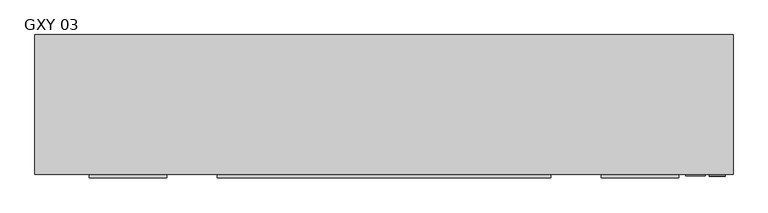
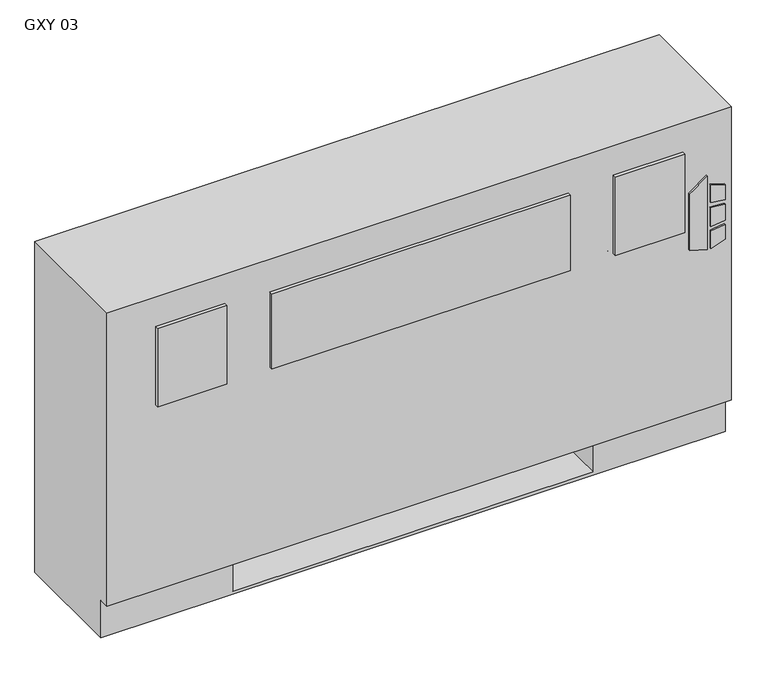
"""IFC4 building model written with IfcOpenShell, lengths in millimetres: proxy geometry, Vertical_Fan_Coil_Unit_-_GXY_-_IEC_-_2-Pipe_FS-FR_RH_2022 : GXY 03."""

from ifc_helpers import new_model, si_unit, point, frame, frame_2d, origin, place, context, project, spatial, polyline, circle_curve, trimmed, segment, composite_curve, outline, extrude, source, transform, mapped, element, save
from ifc_brep_helpers import plane_surface, revolved_surface, advanced_brep


def gxy_03_310a4355(model_context):
    return source(origin(), model_context, "Body", "SolidModel", [
        extrude(outline(polyline([(391.6086829, 646.1868862), (381.6606126, 678.3602728), (523.831537, 678.3602728), (500.8095309, 646.1868862), (391.6086829, 646.1868862)])), frame((0.0, 12.7, 0.0), z_axis=(0.0, 1.0, 0.0), x_axis=(0.0, 0.0, 1.0)), (0.0, 0.0, 1.0), 3.175),
        extrude(outline(polyline([(470.6079683, 685.1186058), (467.4055757, 711.2), (496.6344168, 711.2), (504.6988318, 685.1186058), (470.6079683, 685.1186058)])), frame((0.0, 12.7, 0.0), z_axis=(0.0, 1.0, 0.0), x_axis=(0.0, 0.0, 1.0)), (0.0, 0.0, 1.0), 3.175),
        extrude(outline(polyline([(418.7444414, 711.2), (415.0789404, 685.1186058), (381.6606126, 685.1186058), (390.2948498, 711.2), (418.7444414, 711.2)])), frame((0.0, 12.7, 0.0), z_axis=(0.0, 1.0, 0.0), x_axis=(0.0, 0.0, 1.0)), (0.0, 0.0, 1.0), 3.175),
        extrude(outline(polyline([(458.0596028, 711.2), (460.3414292, 685.1186058), (424.4038806, 685.1186058), (427.1451456, 711.2), (458.0596028, 711.2)])), frame((0.0, 12.7, 0.0), z_axis=(0.0, 1.0, 0.0), x_axis=(0.0, 0.0, 1.0)), (0.0, 0.0, 1.0), 3.175),
        extrude(outline(polyline([(-203.2, 9.525), (-330.2, 9.525), (-330.2, 15.875), (-203.2, 15.875), (-203.2, 9.525)])), frame((0.0, 0.0, 431.8), z_axis=(0.0, 0.0, 1.0), x_axis=(1.0, 0.0, 0.0)), (0.0, 0.0, 1.0), 152.4),
        extrude(outline(polyline([(425.45, 9.525), (-120.65, 9.525), (-120.65, 15.875), (425.45, 15.875), (425.45, 9.525)])), frame((0.0, 0.0, 431.8), z_axis=(0.0, 0.0, 1.0), x_axis=(1.0, 0.0, 0.0)), (0.0, 0.0, 1.0), 146.05),
        extrude(outline(polyline([(635.0, 9.525), (508.0, 9.525), (508.0, 15.875), (635.0, 15.875), (635.0, 9.525)])), frame((0.0, 0.0, 431.8), z_axis=(0.0, 0.0, 1.0), x_axis=(1.0, 0.0, 0.0)), (0.0, 0.0, 1.0), 152.4),
        extrude(outline(polyline([(-298.45, 81.534), (-298.45, 223.266), (-127.0, 223.266), (-127.0, 81.534), (-298.45, 81.534)])), frame((0.0, 0.0, 327.025), z_axis=(0.0, 0.0, 1.0), x_axis=(1.0, 0.0, 0.0)), (0.0, 0.0, 1.0), 260.35),
        extrude(outline(composite_curve([segment(trimmed(circle_curve(frame_2d((78.9432, 398.5514)), 7.9375), [point((78.9432, 406.4889))], [point((78.9432, 390.6139))], False, "CARTESIAN"), True, "CONTINUOUS"), segment(trimmed(circle_curve(frame_2d((78.9432, 398.5514)), 7.9375), [point((78.9432, 390.6139))], [point((78.9432, 406.4889))], False, "CARTESIAN"), True, "CONTINUOUS")], self_intersect=False)), frame((482.6, 0.0, 0.0), z_axis=(1.0, 0.0, 0.0), x_axis=(0.0, 1.0, 0.0)), (0.0, 0.0, 1.0), 50.8),
        extrude(outline(composite_curve([segment(trimmed(circle_curve(frame_2d((155.9052, 537.3878)), 7.9375), [point((155.9052, 545.3253))], [point((155.9052, 529.4503))], False, "CARTESIAN"), True, "CONTINUOUS"), segment(trimmed(circle_curve(frame_2d((155.9052, 537.3878)), 7.9375), [point((155.9052, 529.4503))], [point((155.9052, 545.3253))], False, "CARTESIAN"), True, "CONTINUOUS")], self_intersect=False)), frame((482.6, 0.0, 0.0), z_axis=(1.0, 0.0, 0.0), x_axis=(0.0, 1.0, 0.0)), (0.0, 0.0, 1.0), 50.8),
        advanced_brep(
        [(723.9, 244.475, 641.35), (-419.1, 244.475, 641.35), (-419.1, 15.875, 641.35), (723.9, 15.875, 641.35), (-419.1, 244.475, 0.0), (723.9, 244.475, 0.0), (723.9, 34.925, 0.0), (-419.1, 34.925, 0.0), (482.6, 244.475, 73.025), (711.2, 244.475, 73.025), (711.2, 244.475, 628.65), (482.6, 244.475, 628.65), (482.6, 244.475, 418.0400565), (511.175, 244.475, 418.0400565), (511.175, 244.475, 388.4099435), (482.6, 244.475, 388.4099435), (482.6, 244.475, 290.5125), (511.175, 244.475, 290.5125), (511.175, 244.475, 261.9375), (482.6, 244.475, 261.9375), (482.6, 244.475, 119.0625), (511.175, 244.475, 119.0625), (511.175, 244.475, 90.4875), (482.6, 244.475, 90.4875), (-177.8, 244.475, 628.65), (-406.4, 244.475, 628.65), (-406.4, 244.475, 73.025), (-177.8, 244.475, 73.025), (-177.8, 244.475, 90.4875), (-206.375, 244.475, 90.4875), (-206.375, 244.475, 119.0625), (-177.8, 244.475, 119.0625), (-177.8, 244.475, 261.9375), (-206.375, 244.475, 261.9375), (-206.375, 244.475, 290.5125), (-177.8, 244.475, 290.5125), (-177.8, 244.475, 388.4099435), (-206.375, 244.475, 388.4099435), (-206.375, 244.475, 418.0400565), (-177.8, 244.475, 418.0400565), (500.8626, 244.475, 104.775), (489.7374, 244.475, 104.775), (500.8626, 244.475, 403.225), (489.7374, 244.475, 403.225), (500.8626, 244.475, 276.225), (489.7374, 244.475, 276.225), (-184.9374, 244.475, 104.775), (-196.0626, 244.475, 104.775), (-184.9374, 244.475, 276.225), (-196.0626, 244.475, 276.225), (-184.9374, 244.475, 403.225), (-196.0626, 244.475, 403.225), (-419.1, 34.925, 73.025), (-419.1, 15.875, 73.025), (723.9, 15.875, 73.025), (723.9, 34.925, 73.025), (-177.8, 34.925, 73.025), (-177.8, 219.075, 73.025), (482.6, 219.075, 73.025), (482.6, 34.925, 73.025), (482.6, 34.925, 6.35), (-177.8, 34.925, 6.35), (482.6, 41.275, 628.65), (711.2, 41.275, 628.65), (711.2, 41.275, 73.025), (482.6, 41.275, 73.025), (-177.8, 41.275, 628.65), (-177.8, 41.275, 73.025), (-406.4, 41.275, 73.025), (-406.4, 41.275, 628.65), (482.6, 219.075, 73.025), (482.6, 238.125, 90.4875), (482.6, 238.125, 119.0625), (482.6, 238.125, 261.9375), (482.6, 238.125, 290.5125), (482.6, 238.125, 388.4099435), (482.6, 238.125, 418.0400565), (-177.8, 219.075, 73.025), (-177.8, 238.125, 418.0400565), (-177.8, 238.125, 388.4099435), (-177.8, 238.125, 290.5125), (-177.8, 238.125, 261.9375), (-177.8, 238.125, 119.0625), (-177.8, 238.125, 90.4875), (-177.8, 219.075, 6.35), (482.6, 219.075, 6.35), (511.175, 238.125, 90.4875), (511.175, 238.125, 119.0625), (489.7374, 238.125, 104.775), (500.8626, 238.125, 104.775), (511.175, 238.125, 261.9375), (511.175, 238.125, 290.5125), (489.7374, 238.125, 276.225), (500.8626, 238.125, 276.225), (511.175, 238.125, 388.4099435), (511.175, 238.125, 418.0400565), (489.7374, 238.125, 403.225), (500.8626, 238.125, 403.225), (-206.375, 238.125, 119.0625), (-206.375, 238.125, 90.4875), (-196.0626, 238.125, 104.775), (-184.9374, 238.125, 104.775), (-206.375, 238.125, 290.5125), (-206.375, 238.125, 261.9375), (-196.0626, 238.125, 276.225), (-184.9374, 238.125, 276.225), (-206.375, 238.125, 418.0400565), (-206.375, 238.125, 388.4099435), (-196.0626, 238.125, 403.225), (-184.9374, 238.125, 403.225)],
        [
            (0, 1),
            (1, 2),
            (2, 3),
            (3, 0),
            (4, 5),
            (5, 6),
            (6, 7),
            (7, 4),
            (0, 5),
            (4, 1),
            (8, 9),
            (9, 10),
            (10, 11),
            (11, 12),
            (12, 13),
            (13, 14),
            (14, 15),
            (15, 16),
            (16, 17),
            (17, 18),
            (18, 19),
            (19, 20),
            (20, 21),
            (21, 22),
            (22, 23),
            (23, 8),
            (24, 25),
            (25, 26),
            (26, 27),
            (27, 28),
            (28, 29),
            (29, 30),
            (30, 31),
            (31, 32),
            (32, 33),
            (33, 34),
            (34, 35),
            (35, 36),
            (36, 37),
            (37, 38),
            (38, 39),
            (39, 24),
            (40, 41, circle_curve(frame((495.3, 244.475, 104.775), z_axis=(0.0, -1.0, 0.0), x_axis=(-1.0, 0.0, 0.0)), 5.5626)),
            (41, 40, circle_curve(frame((495.3, 244.475, 104.775), z_axis=(0.0, -1.0, 0.0), x_axis=(-1.0, 0.0, 0.0)), 5.5626)),
            (42, 43, circle_curve(frame((495.3, 244.475, 403.225), z_axis=(0.0, -1.0, 0.0), x_axis=(-1.0, 0.0, 0.0)), 5.5626)),
            (43, 42, circle_curve(frame((495.3, 244.475, 403.225), z_axis=(0.0, -1.0, 0.0), x_axis=(-1.0, 0.0, 0.0)), 5.5626)),
            (44, 45, circle_curve(frame((495.3, 244.475, 276.225), z_axis=(0.0, -1.0, 0.0), x_axis=(-1.0, 0.0, 0.0)), 5.5626)),
            (45, 44, circle_curve(frame((495.3, 244.475, 276.225), z_axis=(0.0, -1.0, 0.0), x_axis=(-1.0, 0.0, 0.0)), 5.5626)),
            (46, 47, circle_curve(frame((-190.5, 244.475, 104.775), z_axis=(0.0, -1.0, 0.0), x_axis=(-1.0, 0.0, 0.0)), 5.5626)),
            (47, 46, circle_curve(frame((-190.5, 244.475, 104.775), z_axis=(0.0, -1.0, 0.0), x_axis=(-1.0, 0.0, 0.0)), 5.5626)),
            (48, 49, circle_curve(frame((-190.5, 244.475, 276.225), z_axis=(0.0, -1.0, 0.0), x_axis=(-1.0, 0.0, 0.0)), 5.5626)),
            (49, 48, circle_curve(frame((-190.5, 244.475, 276.225), z_axis=(0.0, -1.0, 0.0), x_axis=(-1.0, 0.0, 0.0)), 5.5626)),
            (50, 51, circle_curve(frame((-190.5, 244.475, 403.225), z_axis=(0.0, -1.0, 0.0), x_axis=(-1.0, 0.0, 0.0)), 5.5626)),
            (51, 50, circle_curve(frame((-190.5, 244.475, 403.225), z_axis=(0.0, -1.0, 0.0), x_axis=(-1.0, 0.0, 0.0)), 5.5626)),
            (7, 52),
            (52, 53),
            (53, 2),
            (53, 54),
            (54, 3),
            (54, 55),
            (55, 6),
            (52, 56),
            (56, 57),
            (57, 58),
            (58, 59),
            (59, 55),
            (59, 60),
            (60, 61),
            (61, 56),
            (62, 63),
            (63, 64),
            (64, 65),
            (65, 62),
            (66, 67),
            (67, 68),
            (68, 69),
            (69, 66),
            (65, 70),
            (70, 8),
            (23, 71),
            (71, 72),
            (72, 20),
            (19, 73),
            (73, 74),
            (74, 16),
            (15, 75),
            (75, 76),
            (76, 12),
            (11, 62),
            (64, 9),
            (63, 10),
            (69, 25),
            (24, 66),
            (68, 26),
            (67, 77),
            (77, 27),
            (39, 78),
            (78, 79),
            (79, 36),
            (35, 80),
            (80, 81),
            (81, 32),
            (31, 82),
            (82, 83),
            (83, 28),
            (57, 84),
            (84, 85),
            (85, 58),
            (85, 60),
            (84, 61),
            (71, 86),
            (86, 87),
            (87, 72),
            (88, 89, circle_curve(frame((495.3, 238.125, 104.775), z_axis=(0.0, 1.0, 0.0), x_axis=(-1.0, 0.0, 0.0)), 5.5626)),
            (89, 88, circle_curve(frame((495.3, 238.125, 104.775), z_axis=(0.0, 1.0, 0.0), x_axis=(-1.0, 0.0, 0.0)), 5.5626)),
            (73, 90),
            (90, 91),
            (91, 74),
            (92, 93, circle_curve(frame((495.3, 238.125, 276.225), z_axis=(0.0, 1.0, 0.0), x_axis=(-1.0, 0.0, 0.0)), 5.5626)),
            (93, 92, circle_curve(frame((495.3, 238.125, 276.225), z_axis=(0.0, 1.0, 0.0), x_axis=(-1.0, 0.0, 0.0)), 5.5626)),
            (75, 94),
            (94, 95),
            (95, 76),
            (96, 97, circle_curve(frame((495.3, 238.125, 403.225), z_axis=(0.0, 1.0, 0.0), x_axis=(-1.0, 0.0, 0.0)), 5.5626)),
            (97, 96, circle_curve(frame((495.3, 238.125, 403.225), z_axis=(0.0, 1.0, 0.0), x_axis=(-1.0, 0.0, 0.0)), 5.5626)),
            (98, 99),
            (99, 83),
            (82, 98),
            (100, 101, circle_curve(frame((-190.5, 238.125, 104.775), z_axis=(0.0, 1.0, 0.0), x_axis=(-1.0, 0.0, 0.0)), 5.5626)),
            (101, 100, circle_curve(frame((-190.5, 238.125, 104.775), z_axis=(0.0, 1.0, 0.0), x_axis=(-1.0, 0.0, 0.0)), 5.5626)),
            (102, 103),
            (103, 81),
            (80, 102),
            (104, 105, circle_curve(frame((-190.5, 238.125, 276.225), z_axis=(0.0, 1.0, 0.0), x_axis=(-1.0, 0.0, 0.0)), 5.5626)),
            (105, 104, circle_curve(frame((-190.5, 238.125, 276.225), z_axis=(0.0, 1.0, 0.0), x_axis=(-1.0, 0.0, 0.0)), 5.5626)),
            (106, 107),
            (107, 79),
            (78, 106),
            (108, 109, circle_curve(frame((-190.5, 238.125, 403.225), z_axis=(0.0, 1.0, 0.0), x_axis=(-1.0, 0.0, 0.0)), 5.5626)),
            (109, 108, circle_curve(frame((-190.5, 238.125, 403.225), z_axis=(0.0, 1.0, 0.0), x_axis=(-1.0, 0.0, 0.0)), 5.5626)),
            (87, 21),
            (86, 22),
            (91, 17),
            (90, 18),
            (95, 13),
            (94, 14),
            (30, 98),
            (99, 29),
            (34, 102),
            (103, 33),
            (38, 106),
            (107, 37),
            (88, 41),
            (40, 89),
            (96, 43),
            (42, 97),
            (92, 45),
            (44, 93),
            (100, 47),
            (46, 101),
            (104, 49),
            (48, 105),
            (108, 51),
            (50, 109),
        ],
        [
            plane_surface(frame((-419.1, 244.475, 641.35), z_axis=(0.0, 0.0, 1.0), x_axis=(-1.0, 0.0, 0.0))),
            plane_surface(frame((-419.1, 244.475, 0.0), z_axis=(0.0, 0.0, -1.0), x_axis=(1.0, 0.0, 0.0))),
            plane_surface(frame((723.9, 244.475, 641.35), z_axis=(0.0, 1.0, 0.0), x_axis=(0.0, 0.0, -1.0))),
            plane_surface(frame((-419.1, 244.475, 641.35), z_axis=(-1.0, 0.0, 0.0), x_axis=(0.0, 0.0, -1.0))),
            plane_surface(frame((-419.1, 15.875, 641.35), z_axis=(0.0, -1.0, 0.0), x_axis=(0.0, 0.0, -1.0))),
            plane_surface(frame((723.9, 15.875, 641.35), z_axis=(1.0, 0.0, 0.0), x_axis=(0.0, 0.0, -1.0))),
            plane_surface(frame((-419.1, 15.875, 73.025), z_axis=(0.0, 0.0, -1.0), x_axis=(1.0, 0.0, 0.0))),
            plane_surface(frame((-419.1, 34.925, 73.025), z_axis=(0.0, -1.0, 0.0), x_axis=(1.0, 0.0, 0.0))),
            plane_surface(frame((482.6, 41.275, 628.65), z_axis=(0.0, 1.0, 0.0), x_axis=(0.0, 0.0, -1.0))),
            plane_surface(frame((482.6, 41.275, 628.65), z_axis=(1.0, 0.0, 0.0), x_axis=(0.0, 1.0, 0.0))),
            plane_surface(frame((482.6, 41.275, 73.025), z_axis=(0.0, 0.0, 1.0), x_axis=(0.0, 1.0, 0.0))),
            plane_surface(frame((711.2, 41.275, 73.025), z_axis=(-1.0, 0.0, 0.0), x_axis=(0.0, 1.0, 0.0))),
            plane_surface(frame((711.2, 41.275, 628.65), z_axis=(0.0, 0.0, -1.0), x_axis=(0.0, 1.0, 0.0))),
            plane_surface(frame((-177.8, 41.275, 628.65), z_axis=(0.0, 0.0, -1.0), x_axis=(0.0, 1.0, 0.0))),
            plane_surface(frame((-406.4, 41.275, 628.65), z_axis=(1.0, 0.0, 0.0), x_axis=(0.0, 1.0, 0.0))),
            plane_surface(frame((-406.4, 41.275, 73.025), z_axis=(0.0, 0.0, 1.0), x_axis=(0.0, 1.0, 0.0))),
            plane_surface(frame((-177.8, 41.275, 73.025), z_axis=(-1.0, 0.0, 0.0), x_axis=(0.0, 1.0, 0.0))),
            plane_surface(frame((482.6, 219.075, 73.025), z_axis=(0.0, -1.0, 0.0), x_axis=(0.0, 0.0, -1.0))),
            plane_surface(frame((482.6, 219.075, 73.025), z_axis=(-1.0, 0.0, 0.0), x_axis=(0.0, -1.0, 0.0))),
            plane_surface(frame((482.6, 219.075, 6.35), z_axis=(0.0, 0.0, 1.0), x_axis=(0.0, -1.0, 0.0))),
            plane_surface(frame((-177.8, 219.075, 6.35), z_axis=(1.0, 0.0, 0.0), x_axis=(0.0, -1.0, 0.0))),
            plane_surface(frame((511.175, 238.125, 119.0625), z_axis=(0.0, -1.0, 0.0), x_axis=(-1.0, 0.0, 0.0))),
            plane_surface(frame((482.6, 244.475, 119.0625), z_axis=(0.0, 0.0, 1.0), x_axis=(0.0, -1.0, 0.0))),
            plane_surface(frame((511.175, 244.475, 119.0625), z_axis=(1.0, 0.0, 0.0), x_axis=(0.0, -1.0, 0.0))),
            plane_surface(frame((511.175, 244.475, 90.4875), z_axis=(0.0, 0.0, -1.0), x_axis=(0.0, -1.0, 0.0))),
            plane_surface(frame((482.6, 244.475, 290.5125), z_axis=(0.0, 0.0, 1.0), x_axis=(0.0, -1.0, 0.0))),
            plane_surface(frame((511.175, 244.475, 290.5125), z_axis=(1.0, 0.0, 0.0), x_axis=(0.0, -1.0, 0.0))),
            plane_surface(frame((511.175, 244.475, 261.9375), z_axis=(0.0, 0.0, -1.0), x_axis=(0.0, -1.0, 0.0))),
            plane_surface(frame((482.6, 244.475, 418.0400565), z_axis=(0.0, 0.0, 1.0), x_axis=(0.0, -1.0, 0.0))),
            plane_surface(frame((511.175, 244.475, 418.0400565), z_axis=(1.0, 0.0, 0.0), x_axis=(0.0, -1.0, 0.0))),
            plane_surface(frame((511.175, 244.475, 388.4099435), z_axis=(0.0, 0.0, -1.0), x_axis=(0.0, -1.0, 0.0))),
            plane_surface(frame((-206.375, 244.475, 119.0625), z_axis=(0.0, 0.0, 1.0), x_axis=(0.0, -1.0, 0.0))),
            plane_surface(frame((-177.8, 244.475, 90.4875), z_axis=(0.0, 0.0, -1.0), x_axis=(0.0, -1.0, 0.0))),
            plane_surface(frame((-206.375, 244.475, 90.4875), z_axis=(-1.0, 0.0, 0.0), x_axis=(0.0, -1.0, 0.0))),
            plane_surface(frame((-206.375, 244.475, 290.5125), z_axis=(0.0, 0.0, 1.0), x_axis=(0.0, -1.0, 0.0))),
            plane_surface(frame((-177.8, 244.475, 261.9375), z_axis=(0.0, 0.0, -1.0), x_axis=(0.0, -1.0, 0.0))),
            plane_surface(frame((-206.375, 244.475, 261.9375), z_axis=(-1.0, 0.0, 0.0), x_axis=(0.0, -1.0, 0.0))),
            plane_surface(frame((-206.375, 244.475, 418.0400565), z_axis=(0.0, 0.0, 1.0), x_axis=(0.0, -1.0, 0.0))),
            plane_surface(frame((-177.8, 244.475, 388.4099435), z_axis=(0.0, 0.0, -1.0), x_axis=(0.0, -1.0, 0.0))),
            plane_surface(frame((-206.375, 244.475, 388.4099435), z_axis=(-1.0, 0.0, 0.0), x_axis=(0.0, -1.0, 0.0))),
            revolved_surface(polyline([(489.73740000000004, 238.125, 104.775), (489.73740000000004, 244.475, 104.775)]), (495.3, 244.475, 104.775), (0.0, -1.0, 0.0)),
            revolved_surface(polyline([(489.73740000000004, 238.125, 403.225), (489.73740000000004, 244.475, 403.225)]), (495.3, 244.475, 403.225), (0.0, -1.0, 0.0)),
            revolved_surface(polyline([(489.73740000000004, 238.125, 276.225), (489.73740000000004, 244.475, 276.225)]), (495.3, 244.475, 276.225), (0.0, -1.0, 0.0)),
            revolved_surface(polyline([(-196.0626, 238.125, 104.775), (-196.0626, 244.475, 104.775)]), (-190.5, 244.475, 104.775), (0.0, -1.0, 0.0)),
            revolved_surface(polyline([(-196.0626, 238.125, 276.225), (-196.0626, 244.475, 276.225)]), (-190.5, 244.475, 276.225), (0.0, -1.0, 0.0)),
            revolved_surface(polyline([(-196.0626, 238.125, 403.225), (-196.0626, 244.475, 403.225)]), (-190.5, 244.475, 403.225), (0.0, -1.0, 0.0)),
        ],
        [
            (0, [[1, 2, 3, 4]]),
            (1, [[5, 6, 7, 8]]),
            (2, [[-1, 9, -5, 10], [11, 12, 13, 14, 15, 16, 17, 18, 19, 20, 21, 22, 23, 24, 25, 26], [27, 28, 29, 30, 31, 32, 33, 34, 35, 36, 37, 38, 39, 40, 41, 42], [43, 44], [45, 46], [47, 48], [49, 50], [51, 52], [53, 54]]),
            (3, [[-2, -10, -8, 55, 56, 57]]),
            (4, [[-3, -57, 58, 59]]),
            (5, [[-4, -59, 60, 61, -6, -9]]),
            (6, [[-56, 62, 63, 64, 65, 66, -60, -58]]),
            (7, [[-7, -61, -66, 67, 68, 69, -62, -55]]),
            (8, [[70, 71, 72, 73]]),
            (8, [[74, 75, 76, 77]]),
            (9, [[-73, 78, 79, -26, 80, 81, 82, -22, 83, 84, 85, -18, 86, 87, 88, -14, 89]]),
            (10, [[-72, 90, -11, -79, -78]]),
            (11, [[-71, 91, -12, -90]]),
            (12, [[-70, -89, -13, -91]]),
            (13, [[-77, 92, -27, 93]]),
            (14, [[-76, 94, -28, -92]]),
            (15, [[-75, 95, 96, -29, -94]]),
            (16, [[-74, -93, -42, 97, 98, 99, -38, 100, 101, 102, -34, 103, 104, 105, -30, -96, -95]]),
            (17, [[-64, 106, 107, 108]]),
            (18, [[-108, 109, -67, -65]]),
            (19, [[-107, 110, -68, -109]]),
            (20, [[-106, -63, -69, -110]]),
            (21, [[111, 112, 113, -81], [114, 115]]),
            (21, [[116, 117, 118, -84], [119, 120]]),
            (21, [[121, 122, 123, -87], [124, 125]]),
            (21, [[126, 127, -104, 128], [129, 130]]),
            (21, [[131, 132, -101, 133], [134, 135]]),
            (21, [[136, 137, -98, 138], [139, 140]]),
            (22, [[-113, 141, -23, -82]]),
            (23, [[-112, 142, -24, -141]]),
            (24, [[-111, -80, -25, -142]]),
            (25, [[-118, 143, -19, -85]]),
            (26, [[-117, 144, -20, -143]]),
            (27, [[-116, -83, -21, -144]]),
            (28, [[-123, 145, -15, -88]]),
            (29, [[-122, 146, -16, -145]]),
            (30, [[-121, -86, -17, -146]]),
            (31, [[-128, -103, -33, 147]]),
            (32, [[-127, 148, -31, -105]]),
            (33, [[-126, -147, -32, -148]]),
            (34, [[-133, -100, -37, 149]]),
            (35, [[-132, 150, -35, -102]]),
            (36, [[-131, -149, -36, -150]]),
            (37, [[-138, -97, -41, 151]]),
            (38, [[-137, 152, -39, -99]]),
            (39, [[-136, -151, -40, -152]]),
            (40, [[153, -43, 154, -114]]),
            (40, [[-153, -115, -154, -44]]),
            (41, [[155, -45, 156, -124]]),
            (41, [[-155, -125, -156, -46]]),
            (42, [[157, -47, 158, -119]]),
            (42, [[-157, -120, -158, -48]]),
            (43, [[159, -49, 160, -129]]),
            (43, [[-159, -130, -160, -50]]),
            (44, [[161, -51, 162, -134]]),
            (44, [[-161, -135, -162, -52]]),
            (45, [[163, -53, 164, -139]]),
            (45, [[-163, -140, -164, -54]]),
        ],
    ),
    ])


if __name__ == "__main__":
    model = new_model("IFC4")
    model_context = context("Model", 3, world=origin())
    ifc_project = project(units=[si_unit("LENGTHUNIT", "METRE", prefix="MILLI")], contexts=[model_context])
    site = spatial("IfcSite", under=ifc_project)
    building = spatial("IfcBuilding", under=site)
    placement = place(None, origin())
    gxy_03_shape = gxy_03_310a4355(model_context)
    element("IfcBuildingElementProxy", 1, Name="Vertical_Fan_Coil_Unit_-_GXY_-_IEC_-_2-Pipe_FS-FR_RH_2022 : GXY 03", ObjectType="Vertical_Fan_Coil_Unit_-_GXY_-_IEC_-_2-Pipe_FS-FR_RH_2022 : GXY 03", at=placement, inside=building, context=model_context, shape_type="MappedRepresentation", body=[
        mapped(gxy_03_shape, transform((0.0, 0.0, 0.0), x_axis=(1.0, 0.0, 0.0), y_axis=(0.0, 1.0, 0.0), z_axis=(0.0, 0.0, 1.0))),
    ])
    save(model, "model.ifc")
